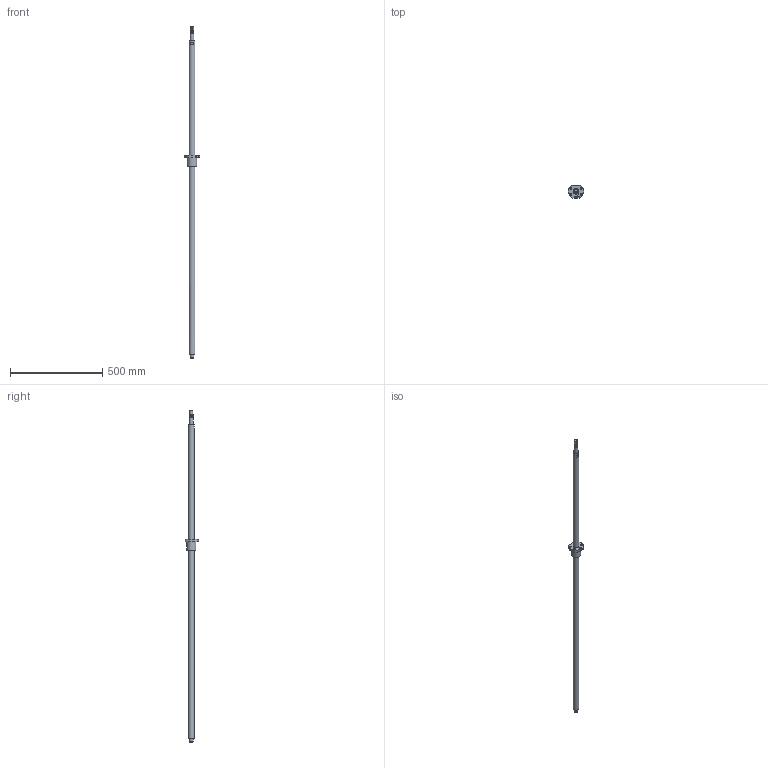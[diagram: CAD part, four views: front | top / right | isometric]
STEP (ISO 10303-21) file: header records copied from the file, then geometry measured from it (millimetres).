
FILE_DESCRIPTION(/* description */ (''),/* implementation_level */ '2;1');
FILE_NAME(/* name */ 'BSG405_asm1.stp',/* time_stamp */ '2017-01-12T14:10:24+08:00',/* author */ (''),/* organization */ (''),/* preprocessor_version */ 'ST-DEVELOPER v15',/* originating_system */ 'SIEMENS PLM Software NX 8.5',/* authorisation */ '');
FILE_SCHEMA (('AUTOMOTIVE_DESIGN { 1 0 10303 214 3 1 1 1 }'));
Length unit declared in the file: millimetre
Products named in the file (3): 01; BSG405; BSG405_asm1
Assembly tree (2 placements, depth 2):
  BSG405_asm1
    BSG405
    01
Bounding box: 81.92 x 72.85 x 1800 mm (x, y, z)
Volume: 1499101 mm3; surface area: 206414.2 mm2
Topology: 2 solids, 2 shells, 61 faces, 131 edges, 88 vertices
Faces by surface type: cylinder 29, plane 28, bspline 2, cone 2
Full cylindrical faces by diameter (mm): 5 x1, 6 x1, 7 x5, 12 x5, 17 x1, 19 x1, 20 x8, 32 x2, 50 x1
Entity records: 2959 total; most frequent: CARTESIAN_POINT 1791, DIRECTION 234, ORIENTED_EDGE 174, AXIS2_PLACEMENT_3D 105, EDGE_LOOP 104, EDGE_CURVE 87, FACE_BOUND 85, VERTEX_POINT 71
